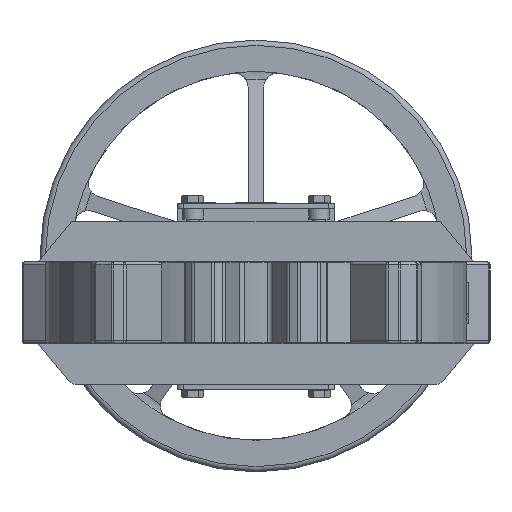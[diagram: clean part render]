
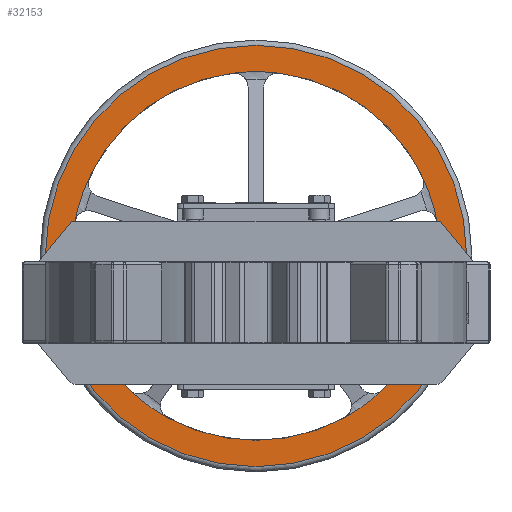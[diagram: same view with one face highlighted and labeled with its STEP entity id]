
A CAD part, front view. The second image highlights one B-rep face of the part: STEP entity #32153.
In plain terms, the highlighted planar face has unit normal (0, -1, 0).
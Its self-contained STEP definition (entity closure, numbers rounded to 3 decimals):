
#27843=CARTESIAN_POINT('',(-171.997,881.0,76.78));
#27844=VERTEX_POINT('',#27843);
#28468=CARTESIAN_POINT('',(-83.85,881.0,-109.104));
#28469=VERTEX_POINT('',#28468);
#29093=CARTESIAN_POINT('',(120.175,881.,-82.713));
#29094=VERTEX_POINT('',#29093);
#29718=CARTESIAN_POINT('',(158.122,881.,119.482));
#29719=VERTEX_POINT('',#29718);
#30188=CARTESIAN_POINT('',(-158.122,881.0,119.482));
#30189=VERTEX_POINT('',#30188);
#30209=CARTESIAN_POINT('',(0.,881.,44.5));
#30210=DIRECTION('',(0.0,1.0,0.0));
#30211=DIRECTION('',(1.0,0.0,0.0));
#30212=AXIS2_PLACEMENT_3D('',#30209,#30210,#30211);
#30213=CIRCLE('',#30212,175.0);
#30214=EDGE_CURVE('',#27844,#30189,#30213,.T.);
#30347=CARTESIAN_POINT('',(-120.175,881.0,-82.713));
#30348=VERTEX_POINT('',#30347);
#30368=CARTESIAN_POINT('',(0.,881.,44.5));
#30369=DIRECTION('',(0.0,1.0,0.0));
#30370=DIRECTION('',(1.0,0.0,0.0));
#30371=AXIS2_PLACEMENT_3D('',#30368,#30369,#30370);
#30372=CIRCLE('',#30371,175.0);
#30373=EDGE_CURVE('',#28469,#30348,#30372,.T.);
#30506=CARTESIAN_POINT('',(83.85,881.,-109.104));
#30507=VERTEX_POINT('',#30506);
#30527=CARTESIAN_POINT('',(0.,881.,44.5));
#30528=DIRECTION('',(0.0,1.0,0.0));
#30529=DIRECTION('',(1.0,0.0,0.0));
#30530=AXIS2_PLACEMENT_3D('',#30527,#30528,#30529);
#30531=CIRCLE('',#30530,175.0);
#30532=EDGE_CURVE('',#29094,#30507,#30531,.T.);
#30698=CARTESIAN_POINT('',(171.997,881.,76.78));
#30699=VERTEX_POINT('',#30698);
#30719=CARTESIAN_POINT('',(0.,881.,44.5));
#30720=DIRECTION('',(0.0,1.0,0.0));
#30721=DIRECTION('',(1.0,0.0,0.0));
#30722=AXIS2_PLACEMENT_3D('',#30719,#30720,#30721);
#30723=CIRCLE('',#30722,175.0);
#30724=EDGE_CURVE('',#29719,#30699,#30723,.T.);
#30737=CARTESIAN_POINT('',(0.,881.,44.5));
#30738=DIRECTION('',(0.0,1.0,0.0));
#30739=DIRECTION('',(1.0,0.0,0.0));
#30740=AXIS2_PLACEMENT_3D('',#30737,#30738,#30739);
#30741=CIRCLE('',#30740,175.0);
#30742=EDGE_CURVE('',#30348,#27844,#30741,.T.);
#30747=CARTESIAN_POINT('',(0.,881.,44.5));
#30748=DIRECTION('',(0.0,1.0,0.0));
#30749=DIRECTION('',(1.0,0.0,0.0));
#30750=AXIS2_PLACEMENT_3D('',#30747,#30748,#30749);
#30751=CIRCLE('',#30750,175.0);
#30752=EDGE_CURVE('',#30507,#28469,#30751,.T.);
#30757=CARTESIAN_POINT('',(0.,881.,44.5));
#30758=DIRECTION('',(0.0,1.0,0.0));
#30759=DIRECTION('',(1.0,0.0,0.0));
#30760=AXIS2_PLACEMENT_3D('',#30757,#30758,#30759);
#30761=CIRCLE('',#30760,175.0);
#30762=EDGE_CURVE('',#30699,#29094,#30761,.T.);
#30772=CARTESIAN_POINT('',(22.45,881.,218.054));
#30773=VERTEX_POINT('',#30772);
#30774=CARTESIAN_POINT('',(0.,881.,44.5));
#30775=DIRECTION('',(0.0,1.0,0.0));
#30776=DIRECTION('',(1.0,0.0,0.0));
#30777=AXIS2_PLACEMENT_3D('',#30774,#30775,#30776);
#30778=CIRCLE('',#30777,175.0);
#30779=EDGE_CURVE('',#30773,#29719,#30778,.T.);
#30798=CARTESIAN_POINT('',(-22.45,881.,218.054));
#30799=VERTEX_POINT('',#30798);
#30806=CARTESIAN_POINT('',(0.,881.,44.5));
#30807=DIRECTION('',(0.0,1.0,0.0));
#30808=DIRECTION('',(1.0,0.0,0.0));
#30809=AXIS2_PLACEMENT_3D('',#30806,#30807,#30808);
#30810=CIRCLE('',#30809,175.0);
#30811=EDGE_CURVE('',#30189,#30799,#30810,.T.);
#32095=CARTESIAN_POINT('',(-200.,881.0,44.5));
#32096=VERTEX_POINT('',#32095);
#32097=CARTESIAN_POINT('',(0.,881.,44.5));
#32098=DIRECTION('',(0.0,1.0,0.0));
#32099=DIRECTION('',(1.0,0.0,0.0));
#32100=AXIS2_PLACEMENT_3D('',#32097,#32098,#32099);
#32101=CIRCLE('',#32100,200.0);
#32102=EDGE_CURVE('',#32096,#32096,#32101,.T.);
#32127=CARTESIAN_POINT('',(0.,881.,44.5));
#32128=DIRECTION('',(0.0,1.0,0.0));
#32129=DIRECTION('',(-1.0,0.0,0.0));
#32130=AXIS2_PLACEMENT_3D('',#32127,#32128,#32129);
#32131=PLANE('',#32130);
#32132=ORIENTED_EDGE('',*,*,#32102,.F.);
#32133=EDGE_LOOP('',(#32132));
#32134=FACE_OUTER_BOUND('',#32133,.T.);
#32135=ORIENTED_EDGE('',*,*,#30779,.T.);
#32136=ORIENTED_EDGE('',*,*,#30724,.T.);
#32137=ORIENTED_EDGE('',*,*,#30762,.T.);
#32138=ORIENTED_EDGE('',*,*,#30532,.T.);
#32139=ORIENTED_EDGE('',*,*,#30752,.T.);
#32140=ORIENTED_EDGE('',*,*,#30373,.T.);
#32141=ORIENTED_EDGE('',*,*,#30742,.T.);
#32142=ORIENTED_EDGE('',*,*,#30214,.T.);
#32143=ORIENTED_EDGE('',*,*,#30811,.T.);
#32144=CARTESIAN_POINT('',(0.,881.,44.5));
#32145=DIRECTION('',(0.0,1.0,0.0));
#32146=DIRECTION('',(1.0,0.0,0.0));
#32147=AXIS2_PLACEMENT_3D('',#32144,#32145,#32146);
#32148=CIRCLE('',#32147,175.0);
#32149=EDGE_CURVE('',#30799,#30773,#32148,.T.);
#32150=ORIENTED_EDGE('',*,*,#32149,.T.);
#32151=EDGE_LOOP('',(#32135,#32136,#32137,#32138,#32139,#32140,#32141,#32142,#32143,#32150));
#32152=FACE_BOUND('',#32151,.T.);
#32153=ADVANCED_FACE('',(#32134,#32152),#32131,.F.);
